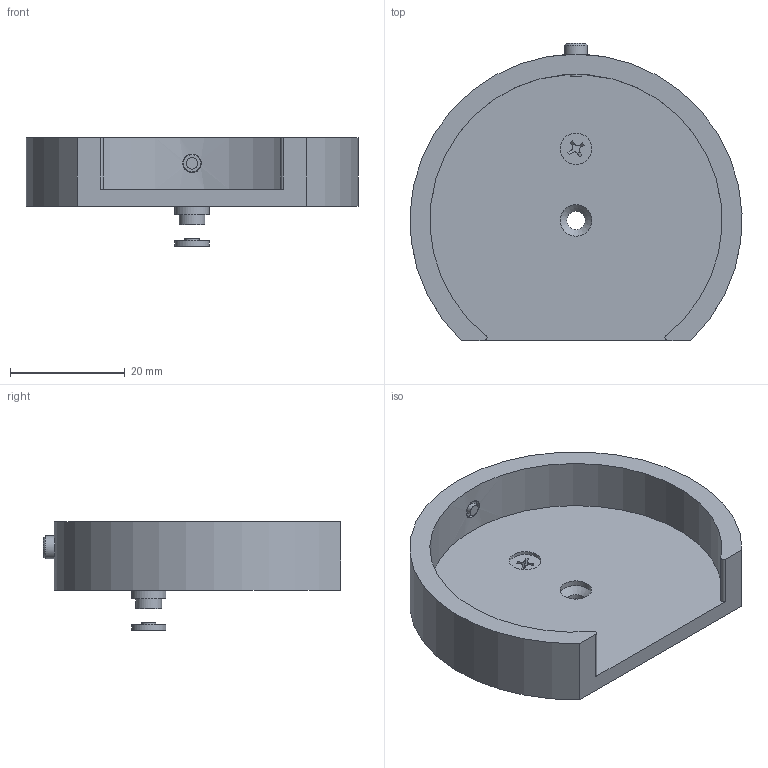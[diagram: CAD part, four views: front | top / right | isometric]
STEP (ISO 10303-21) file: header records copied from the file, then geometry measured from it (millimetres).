
FILE_DESCRIPTION(/* description */ (''),/* implementation_level */ '2;1');
FILE_NAME(/* name */ '5OM122A3.stp',/* time_stamp */ '2026-06-03T08:15:55+03:00',/* author */ ('dsgn33'),/* organization */ (''),/* preprocessor_version */ 'ST-DEVELOPER v20',/* originating_system */ 'Autodesk Inventor 2025',/* authorisation */ '');
FILE_SCHEMA (('AUTOMOTIVE_DESIGN { 1 0 10303 214 3 1 1 }'));
Length unit declared in the file: millimetre
Products named in the file (1): 5OM122A3_Simplify_1
Bounding box: 57.95 x 51.87 x 19 mm (x, y, z)
Volume: 11556.5 mm3; surface area: 8092.4 mm2
Topology: 1 solids, 1 shells, 56 faces, 130 edges, 85 vertices
Faces by surface type: plane 31, cylinder 19, cone 6
Full cylindrical faces by diameter (mm): 2 x1, 2.459 x1, 2.5 x1, 3.2 x1, 3.242 x1, 4 x1, 4.5 x1, 5.5 x2, 6 x2
Entity records: 1756 total; most frequent: CARTESIAN_POINT 340, DIRECTION 281, ORIENTED_EDGE 258, EDGE_CURVE 129, AXIS2_PLACEMENT_3D 98, LINE 85, VECTOR 85, VERTEX_POINT 85
